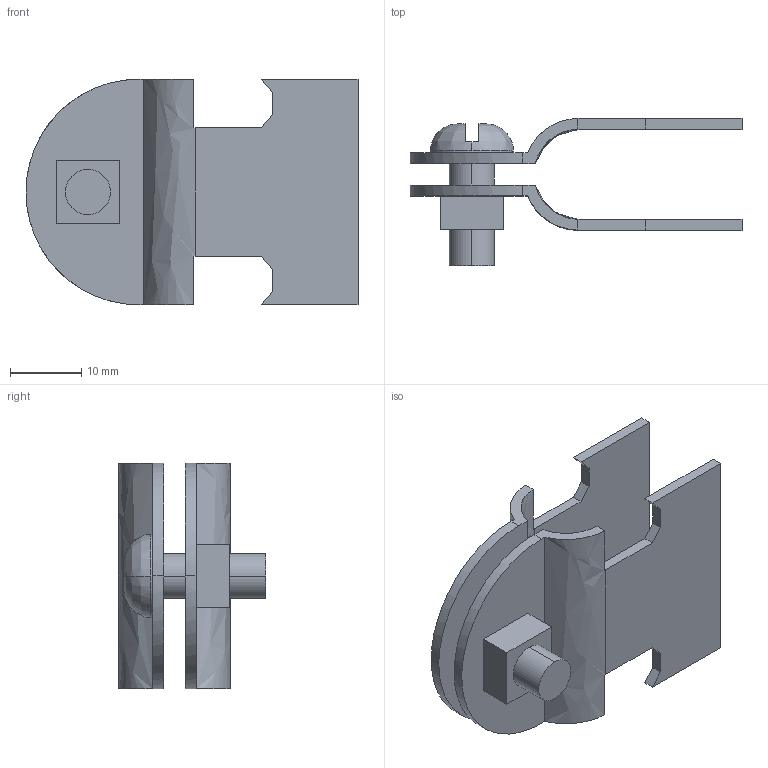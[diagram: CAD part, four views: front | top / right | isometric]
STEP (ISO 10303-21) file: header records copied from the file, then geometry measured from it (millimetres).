
FILE_DESCRIPTION(('TurboCAD Mac Pro'),'Build 980');
FILE_NAME('P2026.stp',' ',(''),(''),'ACIS Interop','IMSI','TurboCAD Mac Pro BY IMSI, INCORPORATED');
FILE_SCHEMA(('automotive_design'));
Length unit declared in the file: inch
Products named in the file (5): 1; 2; 3; 4; 5
Bounding box: 46.74 x 20.7 x 31.74 mm (x, y, z)
Volume: 4965.8 mm3; surface area: 6737.1 mm2
Topology: 4 solids, 4 shells, 75 faces, 194 edges, 128 vertices
Faces by surface type: plane 51, bspline 24
Entity records: 4453 total; most frequent: CARTESIAN_POINT 1202, ORIENTED_EDGE 388, STYLED_ITEM 249, PRESENTATION_STYLE_ASSIGNMENT 249, COLOUR_RGB 249, DIRECTION 246, EDGE_CURVE 194, CURVE_STYLE 170
